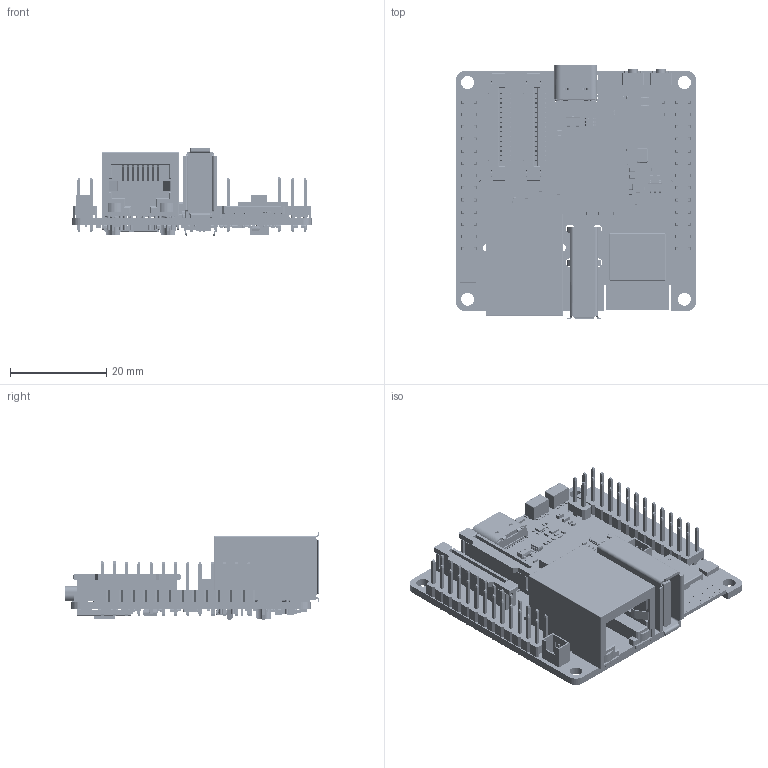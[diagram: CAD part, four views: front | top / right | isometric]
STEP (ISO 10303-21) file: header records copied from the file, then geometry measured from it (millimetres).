
FILE_DESCRIPTION((''),'2;1');
FILE_NAME('ESP32-P4-NANO_ASM','2026-03-31T10:24:44',('xiaojisheng'),(''),'CREO PARAMETRIC BY PTC INC, 2021063','CREO PARAMETRIC BY PTC INC, 2021063','');
FILE_SCHEMA(('CONFIG_CONTROL_DESIGN','SHAPE_APPEARANCE_LAYERS_GROUPS'));
Products named in the file (474): BOARD; 2_1_200; _1_1_20001; 3_1_2_A; C_0603-683_AF0_ASM_ASM; C_0603-7177_AF0_ASM_ASM; C_0603_ASM; C10_ASM; USER_LIBRARY-SOT363-2; U13_ASM; USER_LIBRARY-RES_0603-0201_1; USER_LIBRARY-RES_0603-0201_2; USER_LIBRARY-RES_0603-0201_3; USER_LIBRARY-RES_0603-0201_4; USER_LIBRARY-RES_0603-0201_ASM; R84_ASM; _2_1_20001; 5_1_2_A; _7_AF0; R_0402-3099_AF0_ASM_ASM; R_0402-5222_AF0_ASM_ASM; R0402_ASM; R83_ASM; R82_ASM; SOT-23; Q2_ASM; USER_LIBRARY-0201_0603M__CAP_1; USER_LIBRARY-0201_0603M__CAP_2; USER_LIBRARY-0201_0603M__CAP_3; USER_LIBRARY-0201_0603M__CAP_ASM; C121_ASM; _1_10001; 3_1_A; 2_100; C_0402-672_AF0_ASM_ASM; C_0402-4045_AF0_ASM_ASM; C_0402_ASM; C120_ASM; C73_ASM; C59_ASM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
Assembly tree (715 placements, depth 10):
  ESP32-P4-NANO_ASM
    PCB_ASM
      BOARD
      C10_ASM
        C_0603_ASM
          C_0603-7177_AF0_ASM_ASM
            C_0603-683_AF0_ASM_ASM
              2_1_200
              _1_1_20001
              3_1_2_A
      U13_ASM
        USER_LIBRARY-SOT363-2
      R84_ASM
        USER_LIBRARY-RES_0603-0201_ASM
          USER_LIBRARY-RES_0603-0201_1
          USER_LIBRARY-RES_0603-0201_2
          USER_LIBRARY-RES_0603-0201_3
          USER_LIBRARY-RES_0603-0201_4
      R83_ASM
        R0402_ASM
          R_0402-5222_AF0_ASM_ASM
            R_0402-3099_AF0_ASM_ASM
              _2_1_20001
              5_1_2_A
              _7_AF0
      R82_ASM
        R0402_ASM
          R_0402-5222_AF0_ASM_ASM
            R_0402-3099_AF0_ASM_ASM
              _2_1_20001
              5_1_2_A
              _7_AF0
      Q2_ASM
        SOT-23
      C121_ASM
        USER_LIBRARY-0201_0603M__CAP_ASM
          USER_LIBRARY-0201_0603M__CAP_1
          USER_LIBRARY-0201_0603M__CAP_2
          USER_LIBRARY-0201_0603M__CAP_3
      C120_ASM
        C_0402_ASM
          C_0402-4045_AF0_ASM_ASM
            C_0402-672_AF0_ASM_ASM
              _1_10001
              3_1_A
              2_100
      C73_ASM
        C_0402_ASM
          C_0402-4045_AF0_ASM_ASM
            C_0402-672_AF0_ASM_ASM
              _1_10001
              3_1_A
              2_100
      C59_ASM
        C_0402_ASM
          C_0402-4045_AF0_ASM_ASM
            C_0402-672_AF0_ASM_ASM
              _1_10001
              3_1_A
              2_100
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Bounding box: 50.02 x 52.85 x 18.21 mm (x, y, z)
Volume: 10732.7 mm3; surface area: 18026.1 mm2
Topology: 864 solids, 915 shells, 59483 faces, 155082 edges, 100835 vertices
Faces by surface type: plane 41554, extrusion 11139, cylinder 5382, sphere 1216, torus 116, bspline 40, cone 36
Entity records: 437176 total; most frequent: CARTESIAN_POINT 90558, ORIENTED_EDGE 55440, DIRECTION 52767, EDGE_CURVE 27723, VECTOR 22597, LINE 21621, PRESENTATION_STYLE_ASSIGNMENT 20681, STYLED_ITEM 19178
